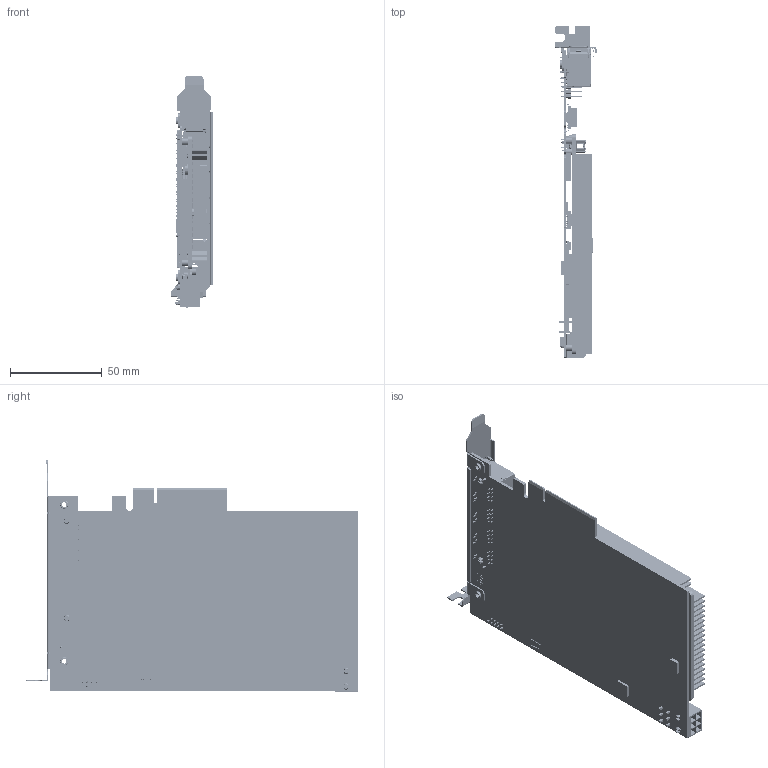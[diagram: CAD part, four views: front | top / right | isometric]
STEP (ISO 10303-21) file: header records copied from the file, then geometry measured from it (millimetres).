
FILE_DESCRIPTION((''),'2;1');
FILE_NAME('00-MV-20551REV1_ASM','2025-03-06T10:32:55',('yanyucai'),(''),'CREO PARAMETRIC BY PTC INC, 2020044','CREO PARAMETRIC BY PTC INC, 2020044','');
FILE_SCHEMA(('CONFIG_CONTROL_DESIGN'));
Products named in the file (276): MV-20341-REV10_1; DE-11-088579; DE-11-089143; DE-11-089144; DE-11-089145; DE-11-089146; DE-11-089147; DE-11-089148; DE-11-089149; DE-11-089142_ASM; DE-11-089150; DE-11-089151; DE-11-089152; DE-11-089153; DE-11-089154; DE-11-089155; DE-11-089156; DE-11-089157; DE-11-089158; DE-11-089159; DE-11-089160; DE-11-089161; DE-11-089162; DE-11-089163; DE-11-089165; DE-11-089166; DE-11-089164_ASM; DE-11-089168; DE-11-089169; DE-11-089167_ASM; DE-11-089171; DE-11-089172; DE-11-089170_ASM; DE-11-089174; DE-11-089175; DE-11-089173_ASM; DE-11-089177; DE-11-089178; DE-11-089176_ASM; DE-11-089180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
Assembly tree (300 placements, depth 7):
  00-MV-20551REV1_ASM
    MV-20341-REV10_1
    DE-11-088579
    DE-11-089138_ASM
      DE-11-089139_ASM
        DE-11-089140_ASM
          DE-11-089141_ASM
            DE-11-089142_ASM
              DE-11-089143
              DE-11-089144
              DE-11-089145
              DE-11-089146
              DE-11-089147
              DE-11-089148
              DE-11-089149
            DE-11-089150
            DE-11-089151
            DE-11-089152
            DE-11-089153
            DE-11-089154
            DE-11-089155
            DE-11-089156
            DE-11-089157
            DE-11-089158
            DE-11-089159
            DE-11-089160
            DE-11-089161
            DE-11-089162
            DE-11-089163
            DE-11-089164_ASM
              DE-11-089165
              DE-11-089166
            DE-11-089167_ASM
              DE-11-089168
              DE-11-089169
            DE-11-089170_ASM
              DE-11-089171
              DE-11-089172
            DE-11-089173_ASM
              DE-11-089174
              DE-11-089175
            DE-11-089176_ASM
              DE-11-089177
              DE-11-089178
            DE-11-089179_ASM
              DE-11-089180
              DE-11-089181
            DE-11-089182_ASM
              DE-11-089183
              DE-11-089184
            DE-11-089185_ASM
              DE-11-089186
              DE-11-089187
          DE-11-089188_ASM
            DE-11-089189
          DE-11-089190_ASM
            DE-11-089191
            DE-11-089192
            DE-11-089193
            DE-11-089194
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Bounding box: 22.39 x 180.98 x 126.71 mm (x, y, z)
Volume: 70191.3 mm3; surface area: 121140.9 mm2
Topology: 241 solids, 249 shells, 13236 faces, 35428 edges, 22679 vertices
Faces by surface type: plane 10075, cylinder 2760, bspline 230, cone 74, torus 61, sphere 36
Full cylindrical faces by diameter (mm): 3.15 x3
Entity records: 370665 total; most frequent: CARTESIAN_POINT 76706, ORIENTED_EDGE 61300, DIRECTION 58505, EDGE_CURVE 30650, VECTOR 25707, LINE 25707, VERTEX_POINT 19544, AXIS2_PLACEMENT_3D 16399
